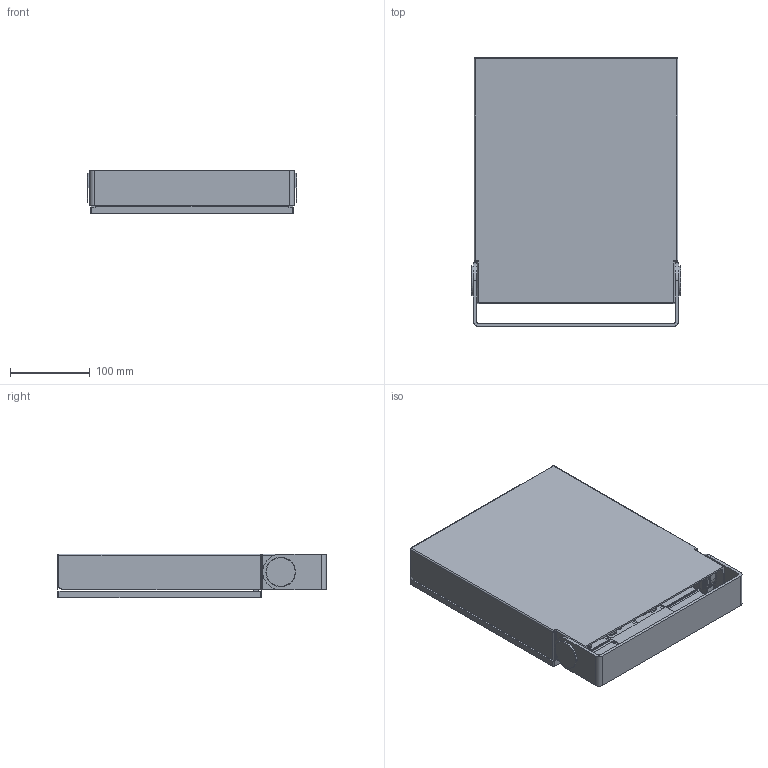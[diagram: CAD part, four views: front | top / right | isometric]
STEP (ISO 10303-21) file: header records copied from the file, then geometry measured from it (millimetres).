
FILE_DESCRIPTION((''),'2;1');
FILE_NAME('SIMMETRICO_SW0001','2025-07-31T08:56:00',('Piccioli'),(''),'CREO PARAMETRIC BY PTC INC, 2025010','CREO PARAMETRIC BY PTC INC, 2025010','');
FILE_SCHEMA(('CONFIG_CONTROL_DESIGN'));
Length unit declared in the file: millimetre
Products named in the file (1): SIMMETRICO_SW0001
Bounding box: 261.5 x 336 x 55 mm (x, y, z)
Surface area: 309010 mm2 (no closed solid volume)
Topology: 0 solids, 60 shells, 247 faces, 1369 edges, 1171 vertices
Faces by surface type: plane 113, cylinder 90, bspline 21, cone 12, torus 9, sphere 2
Entity records: 22284 total; most frequent: CARTESIAN_POINT 12925, DIRECTION 1637, ORIENTED_EDGE 1621, EDGE_CURVE 1369, VERTEX_POINT 1171, VECTOR 713, LINE 713, AXIS2_PLACEMENT_3D 462
